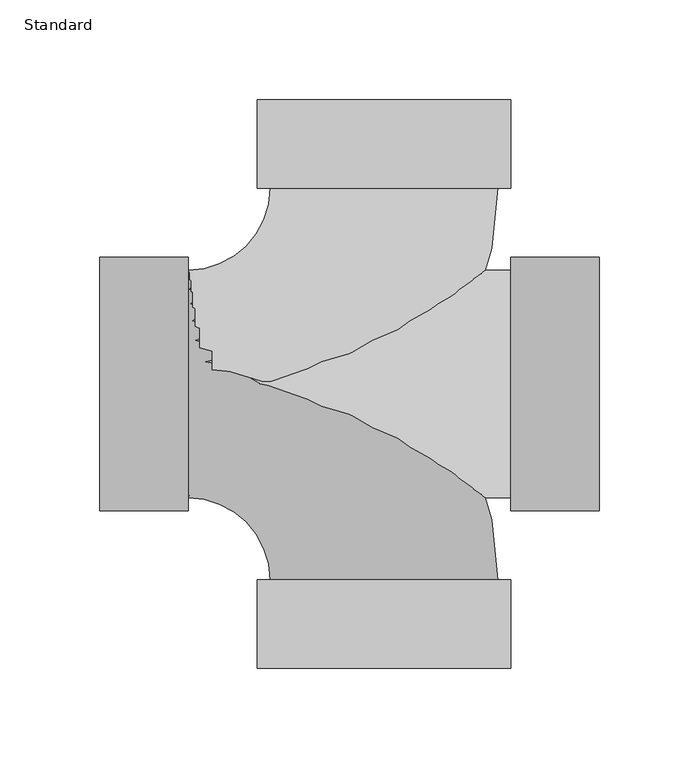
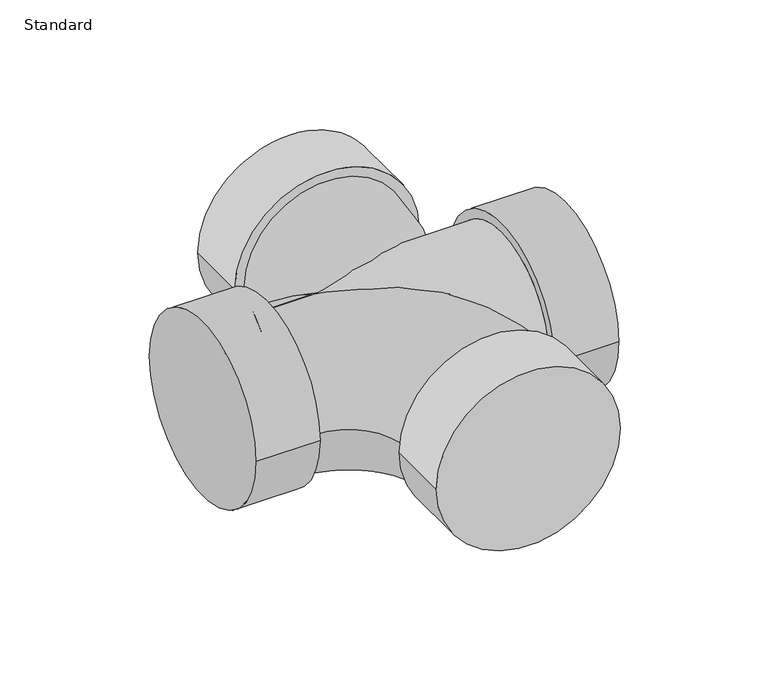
"""IFC4 building model written with IfcOpenShell, lengths in millimetres: pipe fitting geometry, Té sanitaire double - PVC - Nom. 40 - DWV : Standard."""

from ifc_helpers import new_model, si_unit, point, frame, origin, place, context, project, spatial, circle_curve, ellipse_curve, trimmed, source, transform, mapped, element, save
from ifc_brep_helpers import plane_surface, cylinder_surface, revolved_surface, advanced_brep


def standard_8445507c(model_context):
    return source(origin(), model_context, "Body", "AdvancedBrep", [
        advanced_brep(
        [(-98.425, -57.15, 0.0), (-98.425, 57.15, 0.0), (-57.1487489, -98.4257264, 0.0), (57.1512511, -98.4242735, 0.0), (63.7558161, -142.8741896, 0.0), (-63.7521839, -142.8758104, 0.0), (63.7552511, -98.4241896, 0.0), (-63.7527489, -98.4258104, 0.0)],
        [
            (0, 1, circle_curve(frame((-98.425, 0.0, 0.0), z_axis=(-1.0, 0.0, 0.0), x_axis=(0.0, 1.0, 0.0)), 57.15)),
            (1, 0, circle_curve(frame((-98.425, 0.0, 0.0), z_axis=(-1.0, 0.0, 0.0), x_axis=(0.0, 1.0, 0.0)), 57.15)),
            (0, 2, circle_curve(frame((-98.425, -98.4262511, 0.0), z_axis=(0.0, 0.0, -1.0), x_axis=(0.0, 1.0, 0.0)), 41.2762511)),
            (2, 3, circle_curve(frame((0.0012511, -98.425, 0.0), z_axis=(-1.2711184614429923e-05, 0.9999999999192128, 0.0), x_axis=(0.9999999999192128, 1.2711184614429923e-05, 0.0)), 57.15)),
            (3, 1, circle_curve(frame((-98.425, -98.4262511, 0.0), z_axis=(0.0, 0.0, 1.0), x_axis=(0.0, 1.0, 0.0)), 155.5762511)),
            (3, 2, circle_curve(frame((0.0012511, -98.425, 0.0), z_axis=(-1.2711184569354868e-05, 0.9999999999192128, 0.0), x_axis=(0.9999999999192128, 1.2711184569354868e-05, 0.0)), 57.15)),
            (4, 5, circle_curve(frame((0.0018161, -142.875, 0.0), z_axis=(1.2711184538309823e-05, -0.999999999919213, 0.0), x_axis=(-0.999999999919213, -1.2711184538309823e-05, 0.0)), 63.754)),
            (5, 4, circle_curve(frame((0.0018161, -142.875, 0.0), z_axis=(1.2711184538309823e-05, -0.999999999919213, 0.0), x_axis=(-0.999999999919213, -1.2711184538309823e-05, 0.0)), 63.754)),
            (6, 7, circle_curve(frame((0.0012511, -98.425, 0.0), z_axis=(-1.2711184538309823e-05, 0.999999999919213, 0.0), x_axis=(-0.999999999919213, -1.2711184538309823e-05, 0.0)), 63.754)),
            (7, 6, circle_curve(frame((0.0012511, -98.425, 0.0), z_axis=(-1.2711184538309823e-05, 0.999999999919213, 0.0), x_axis=(-0.999999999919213, -1.2711184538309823e-05, 0.0)), 63.754)),
            (4, 6),
            (7, 5),
        ],
        [
            plane_surface(frame((-98.425, 0.0, 0.0), z_axis=(-1.0, 0.0, 0.0), x_axis=(0.0, 0.0, 1.0))),
            revolved_surface(trimmed(ellipse_curve(frame((-98.425, 0.0, 0.0), z_axis=(-1.0, 0.0, 0.0), x_axis=(0.0, 1.0, 0.0)), 57.15, 57.15), [point((-98.425, -57.15, 0.0))], [point((-98.425, 57.15, 0.0))], True, "CARTESIAN"), (-98.425, -98.4262511, 0.0), (0.0, 0.0, -1.0)),
            revolved_surface(trimmed(ellipse_curve(frame((-98.425, 0.0, 0.0), z_axis=(-1.0, 0.0, 0.0), x_axis=(0.0, 1.0, 0.0)), 57.15, 57.15), [point((-98.425, 57.15, 0.0))], [point((-98.425, -57.15, 0.0))], True, "CARTESIAN"), (-98.425, -98.4262511, 0.0), (0.0, 0.0, -1.0)),
            plane_surface(frame((0.0018161, -142.875, 0.0), z_axis=(1.2711184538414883e-05, -0.999999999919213, 0.0), x_axis=(0.0, 0.0, 1.0))),
            plane_surface(frame((0.0012511, -98.425, 0.0), z_axis=(-1.2711184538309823e-05, 0.999999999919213, 0.0), x_axis=(0.0, 0.0, 1.0))),
            cylinder_surface(frame((0.0018161, -142.875, 0.0), z_axis=(1.2711184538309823e-05, -0.999999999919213, 0.0), x_axis=(-0.999999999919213, -1.2711184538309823e-05, 0.0)), 63.754),
        ],
        [
            (0, [[1, 2]]),
            (1, [[-1, 3, 4, 5]]),
            (2, [[-2, -5, 6, -3]]),
            (3, [[7, 8]]),
            (4, [[9, 10], [-4, -6]]),
            (5, [[-7, 11, -10, 12]]),
            (5, [[-8, -12, -9, -11]]),
        ],
    ),
        advanced_brep(
        [(-98.425, -57.15, 0.0), (-98.425, 57.15, 0.0), (57.1478995, 98.4262196, 0.0), (-57.1521004, 98.4237804, 0.0), (63.7518995, 98.4263605, 0.0), (-63.7561004, 98.4236394, 0.0), (63.7509509, 142.8763605, 0.0), (-63.757049, 142.8736394, 0.0)],
        [
            (0, 1, circle_curve(frame((-98.425, 0.0, 0.0), z_axis=(-1.0, 0.0, 0.0), x_axis=(0.0, 1.0, 0.0)), 57.15)),
            (1, 0, circle_curve(frame((-98.425, 0.0, 0.0), z_axis=(-1.0, 0.0, 0.0), x_axis=(0.0, 1.0, 0.0)), 57.15)),
            (0, 2, circle_curve(frame((-98.425, 98.4228996, 0.0), z_axis=(0.0, 0.0, 1.0), x_axis=(0.0, -1.0, 0.0)), 155.5728996)),
            (2, 3, circle_curve(frame((-0.0021005, 98.425, 0.0), z_axis=(2.1340635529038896e-05, -0.9999999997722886, 0.0), x_axis=(-0.9999999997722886, -2.1340635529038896e-05, 0.0)), 57.15)),
            (3, 1, circle_curve(frame((-98.425, 98.4228996, 0.0), z_axis=(0.0, 0.0, -1.0), x_axis=(0.0, -1.0, 0.0)), 41.2728996)),
            (3, 2, circle_curve(frame((-0.0021005, 98.425, 0.0), z_axis=(2.1340635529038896e-05, -0.9999999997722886, 0.0), x_axis=(-0.9999999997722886, -2.1340635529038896e-05, 0.0)), 57.15)),
            (4, 5, circle_curve(frame((-0.0021005, 98.425, 0.0), z_axis=(2.1340635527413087e-05, -0.9999999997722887, 0.0), x_axis=(-0.9999999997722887, -2.1340635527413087e-05, 0.0)), 63.754)),
            (5, 4, circle_curve(frame((-0.0021005, 98.425, 0.0), z_axis=(2.1340635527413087e-05, -0.9999999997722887, 0.0), x_axis=(-0.9999999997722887, -2.1340635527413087e-05, 0.0)), 63.754)),
            (6, 7, circle_curve(frame((-0.003049, 142.875, 0.0), z_axis=(-2.1340635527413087e-05, 0.9999999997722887, 0.0), x_axis=(-0.9999999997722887, -2.1340635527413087e-05, 0.0)), 63.754)),
            (7, 6, circle_curve(frame((-0.003049, 142.875, 0.0), z_axis=(-2.1340635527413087e-05, 0.9999999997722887, 0.0), x_axis=(-0.9999999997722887, -2.1340635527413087e-05, 0.0)), 63.754)),
            (4, 6),
            (7, 5),
        ],
        [
            plane_surface(frame((-98.425, 0.0, 0.0), z_axis=(-1.0, 0.0, 0.0), x_axis=(0.0, 0.0, 1.0))),
            revolved_surface(trimmed(ellipse_curve(frame((-98.425, 0.0, 0.0), z_axis=(-1.0, 0.0, 0.0), x_axis=(0.0, 1.0, 0.0)), 57.15, 57.15), [point((-98.425, -57.15, 0.0))], [point((-98.425, 57.15, 0.0))], True, "CARTESIAN"), (-98.425, 98.4228996, 0.0), (0.0, 0.0, 1.0)),
            revolved_surface(trimmed(ellipse_curve(frame((-98.425, 0.0, 0.0), z_axis=(-1.0, 0.0, 0.0), x_axis=(0.0, 1.0, 0.0)), 57.15, 57.15), [point((-98.425, 57.15, 0.0))], [point((-98.425, -57.15, 0.0))], True, "CARTESIAN"), (-98.425, 98.4228996, 0.0), (0.0, 0.0, 1.0)),
            plane_surface(frame((-0.0021005, 98.425, 0.0), z_axis=(2.1340635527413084e-05, -0.9999999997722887, 0.0), x_axis=(0.0, 0.0, 1.0))),
            plane_surface(frame((-0.003049, 142.875, 0.0), z_axis=(-2.1340635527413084e-05, 0.9999999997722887, 0.0), x_axis=(0.0, 0.0, 1.0))),
            cylinder_surface(frame((-0.0021005, 98.425, 0.0), z_axis=(2.1340635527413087e-05, -0.9999999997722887, 0.0), x_axis=(-0.9999999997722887, -2.1340635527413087e-05, 0.0)), 63.754),
        ],
        [
            (0, [[1, 2]]),
            (1, [[-1, 3, 4, 5]]),
            (2, [[-2, -5, 6, -3]]),
            (3, [[7, 8], [-4, -6]]),
            (4, [[9, 10]]),
            (5, [[-7, 11, -10, 12]]),
            (5, [[-8, -12, -9, -11]]),
        ],
    ),
        advanced_brep(
        [(-142.875, -63.754, 0.0), (-142.875, 63.754, 0.0), (-98.425, -63.754, 0.0), (-98.425, 63.754, 0.0), (-98.425, 57.15, 0.0), (-98.425, -57.15, 0.0), (63.7552511, 57.15, 0.0), (63.7552511, -57.15, 0.0), (63.7552511, -63.754, 0.0), (63.7552511, 63.754, 0.0), (108.2052511, -63.754, 0.0), (108.2052511, 63.754, 0.0)],
        [
            (0, 1, circle_curve(frame((-142.875, 0.0, 0.0), z_axis=(-1.0, 0.0, 0.0), x_axis=(0.0, 1.0, 0.0)), 63.754)),
            (1, 0, circle_curve(frame((-142.875, 0.0, 0.0), z_axis=(-1.0, 0.0, 0.0), x_axis=(0.0, 1.0, 0.0)), 63.754)),
            (2, 3, circle_curve(frame((-98.425, 0.0, 0.0), z_axis=(1.0, 0.0, 0.0), x_axis=(0.0, 1.0, 0.0)), 63.754)),
            (3, 2, circle_curve(frame((-98.425, 0.0, 0.0), z_axis=(1.0, 0.0, 0.0), x_axis=(0.0, 1.0, 0.0)), 63.754)),
            (4, 5, circle_curve(frame((-98.425, 0.0, 0.0), z_axis=(-1.0, 0.0, 0.0), x_axis=(0.0, 0.0, -1.0)), 57.15)),
            (5, 4, circle_curve(frame((-98.425, 0.0, 0.0), z_axis=(-1.0, 0.0, 0.0), x_axis=(0.0, 0.0, 1.0)), 57.15)),
            (0, 2),
            (3, 1),
            (4, 6),
            (6, 7, circle_curve(frame((63.7552511, 0.0, 0.0), z_axis=(-1.0, 0.0, 0.0), x_axis=(0.0, 0.0, -1.0)), 57.15)),
            (7, 5),
            (7, 6, circle_curve(frame((63.7552511, 0.0, 0.0), z_axis=(-1.0, 0.0, 0.0), x_axis=(0.0, 0.0, 1.0)), 57.15)),
            (8, 9, circle_curve(frame((63.7552511, 0.0, 0.0), z_axis=(-1.0, 0.0, 0.0), x_axis=(0.0, 1.0, 0.0)), 63.754)),
            (9, 8, circle_curve(frame((63.7552511, 0.0, 0.0), z_axis=(-1.0, 0.0, 0.0), x_axis=(0.0, 1.0, 0.0)), 63.754)),
            (10, 11, circle_curve(frame((108.2052511, 0.0, 0.0), z_axis=(1.0, 0.0, 0.0), x_axis=(0.0, 1.0, 0.0)), 63.754)),
            (11, 10, circle_curve(frame((108.2052511, 0.0, 0.0), z_axis=(1.0, 0.0, 0.0), x_axis=(0.0, 1.0, 0.0)), 63.754)),
            (8, 10),
            (11, 9),
        ],
        [
            plane_surface(frame((-142.875, 0.0, 0.0), z_axis=(-1.0, 0.0, 0.0), x_axis=(0.0, 0.0, 1.0))),
            plane_surface(frame((-98.425, 0.0, 0.0), z_axis=(1.0, 0.0, 0.0), x_axis=(0.0, 0.0, 1.0))),
            cylinder_surface(frame((-142.875, 0.0, 0.0), z_axis=(-1.0, 0.0, 0.0), x_axis=(0.0, 1.0, 0.0)), 63.754),
            cylinder_surface(frame((-98.425, 0.0, 0.0), z_axis=(1.0, 0.0, 0.0), x_axis=(0.0, 0.0, -1.0)), 57.15),
            cylinder_surface(frame((-98.425, 0.0, 0.0), z_axis=(1.0, 0.0, 0.0), x_axis=(0.0, 0.0, 1.0)), 57.15),
            plane_surface(frame((63.7552511, 0.0, 0.0), z_axis=(-1.0, 0.0, 0.0), x_axis=(0.0, 0.0, 1.0))),
            plane_surface(frame((108.2052511, 0.0, 0.0), z_axis=(1.0, 0.0, 0.0), x_axis=(0.0, 0.0, 1.0))),
            cylinder_surface(frame((63.7552511, 0.0, 0.0), z_axis=(-1.0, 0.0, 0.0), x_axis=(0.0, 1.0, 0.0)), 63.754),
        ],
        [
            (0, [[1, 2]]),
            (1, [[3, 4], [5, 6]]),
            (2, [[-1, 7, -4, 8]]),
            (2, [[-2, -8, -3, -7]]),
            (3, [[9, 10, 11, -5]]),
            (4, [[-9, -6, -11, 12]]),
            (5, [[13, 14], [-10, -12]]),
            (6, [[15, 16]]),
            (7, [[-13, 17, -16, 18]]),
            (7, [[-14, -18, -15, -17]]),
        ],
    ),
    ])


if __name__ == "__main__":
    model = new_model("IFC4")
    model_context = context("Model", 3, world=origin())
    ifc_project = project(units=[si_unit("LENGTHUNIT", "METRE", prefix="MILLI")], contexts=[model_context])
    site = spatial("IfcSite", under=ifc_project)
    building = spatial("IfcBuilding", under=site)
    placement = place(None, origin())
    standard_shape = standard_8445507c(model_context)
    element("IfcPipeFitting", 1, ObjectType="Té sanitaire double - PVC - Nom. 40 - DWV : Standard", at=placement, inside=building, context=model_context, shape_type="MappedRepresentation", body=[
        mapped(standard_shape, transform((0.0, 0.0, 0.0), x_axis=(1.0, 0.0, 0.0), y_axis=(0.0, 1.0, 0.0), z_axis=(0.0, 0.0, 1.0))),
    ])
    save(model, "model.ifc")
